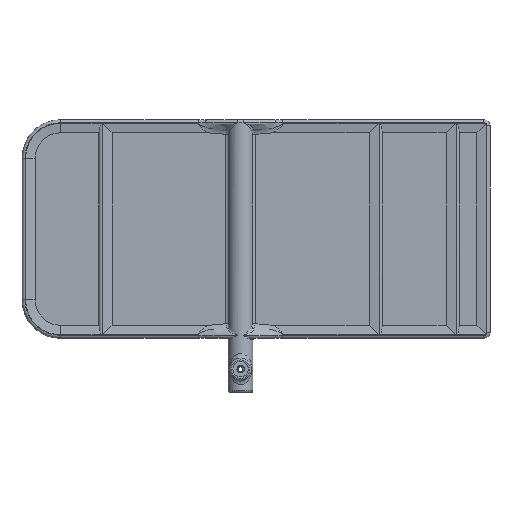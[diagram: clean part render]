
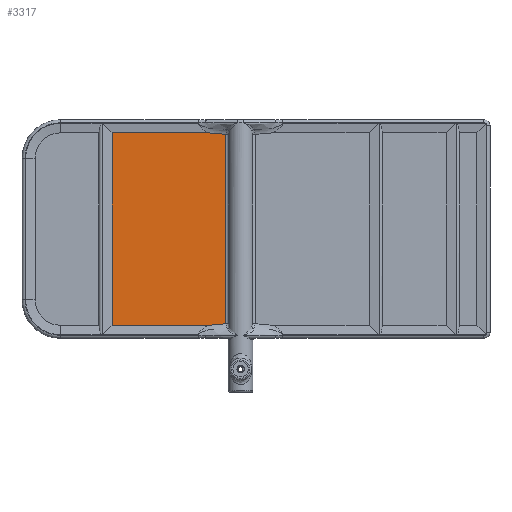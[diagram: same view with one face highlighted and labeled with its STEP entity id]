
A CAD part, top view. The second image highlights one B-rep face of the part: STEP entity #3317.
In plain terms, the highlighted planar face has unit normal (0, 0, 1).
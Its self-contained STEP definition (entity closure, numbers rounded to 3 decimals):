
#142=PLANE('',#3605);
#239=FACE_OUTER_BOUND('',#455,.T.);
#455=EDGE_LOOP('',(#2360,#2361,#2362,#2363,#2364,#2365));
#667=B_SPLINE_CURVE_WITH_KNOTS('',3,(#5919,#5920,#5921,#5922,#5923,#5924,
#5925,#5926,#5927,#5928),.UNSPECIFIED.,.F.,.F.,(4,2,2,2,4),(0.,0.216,
0.359,0.546,0.642),.UNSPECIFIED.);
#668=B_SPLINE_CURVE_WITH_KNOTS('',3,(#5932,#5933,#5934,#5935,#5936,#5937,
#5938,#5939,#5940,#5941),.UNSPECIFIED.,.F.,.F.,(4,2,2,2,4),(0.212,
0.631,0.944,1.131,1.247),
 .UNSPECIFIED.);
#783=LINE('',#5915,#998);
#784=LINE('',#5917,#999);
#785=LINE('',#5930,#1000);
#786=LINE('',#5942,#1001);
#998=VECTOR('',#4112,10.);
#999=VECTOR('',#4113,10.);
#1000=VECTOR('',#4114,10.);
#1001=VECTOR('',#4115,10.);
#1435=VERTEX_POINT('',#5913);
#1436=VERTEX_POINT('',#5914);
#1437=VERTEX_POINT('',#5916);
#1438=VERTEX_POINT('',#5918);
#1439=VERTEX_POINT('',#5929);
#1440=VERTEX_POINT('',#5931);
#1780=EDGE_CURVE('',#1435,#1436,#783,.T.);
#1781=EDGE_CURVE('',#1436,#1437,#784,.T.);
#1782=EDGE_CURVE('',#1437,#1438,#667,.T.);
#1783=EDGE_CURVE('',#1439,#1438,#785,.T.);
#1784=EDGE_CURVE('',#1439,#1440,#668,.T.);
#1785=EDGE_CURVE('',#1440,#1435,#786,.T.);
#2360=ORIENTED_EDGE('',*,*,#1780,.T.);
#2361=ORIENTED_EDGE('',*,*,#1781,.T.);
#2362=ORIENTED_EDGE('',*,*,#1782,.T.);
#2363=ORIENTED_EDGE('',*,*,#1783,.F.);
#2364=ORIENTED_EDGE('',*,*,#1784,.T.);
#2365=ORIENTED_EDGE('',*,*,#1785,.T.);
#3317=ADVANCED_FACE('',(#239),#142,.T.);
#3605=AXIS2_PLACEMENT_3D('',#5912,#4110,#4111);
#4110=DIRECTION('center_axis',(0.,0.,1.));
#4111=DIRECTION('ref_axis',(1.,0.,0.));
#4112=DIRECTION('',(0.,-1.,0.));
#4113=DIRECTION('',(1.,0.,0.));
#4114=DIRECTION('',(0.,-1.,0.));
#4115=DIRECTION('',(-1.,0.,0.));
#5912=CARTESIAN_POINT('Origin',(13.879,0.,1.));
#5913=CARTESIAN_POINT('',(-83.5,62.5,1.));
#5914=CARTESIAN_POINT('',(-83.5,-62.5,1.));
#5915=CARTESIAN_POINT('',(-83.5,0.,1.));
#5916=CARTESIAN_POINT('',(-20.732,-62.5,1.));
#5917=CARTESIAN_POINT('',(2.971,-62.5,1.));
#5918=CARTESIAN_POINT('',(-9.539,-61.541,1.));
#5919=CARTESIAN_POINT('Ctrl Pts',(-20.732,-62.5,1.));
#5920=CARTESIAN_POINT('Ctrl Pts',(-20.011,-62.5,1.));
#5921=CARTESIAN_POINT('Ctrl Pts',(-19.064,-62.429,1.));
#5922=CARTESIAN_POINT('Ctrl Pts',(-17.143,-62.256,1.));
#5923=CARTESIAN_POINT('Ctrl Pts',(-17.034,-62.244,1.));
#5924=CARTESIAN_POINT('Ctrl Pts',(-13.387,-61.893,1.));
#5925=CARTESIAN_POINT('Ctrl Pts',(-12.957,-61.853,1.));
#5926=CARTESIAN_POINT('Ctrl Pts',(-10.915,-61.665,1.));
#5927=CARTESIAN_POINT('Ctrl Pts',(-10.227,-61.603,1.));
#5928=CARTESIAN_POINT('Ctrl Pts',(-9.539,-61.541,1.));
#5929=CARTESIAN_POINT('',(-9.539,61.541,1.));
#5930=CARTESIAN_POINT('',(-9.539,-17.5,1.));
#5931=CARTESIAN_POINT('',(-20.732,62.5,1.));
#5932=CARTESIAN_POINT('Ctrl Pts',(-9.539,61.541,1.));
#5933=CARTESIAN_POINT('Ctrl Pts',(-10.92,61.665,1.));
#5934=CARTESIAN_POINT('Ctrl Pts',(-12.316,61.793,1.));
#5935=CARTESIAN_POINT('Ctrl Pts',(-14.942,62.042,1.));
#5936=CARTESIAN_POINT('Ctrl Pts',(-15.882,62.134,1.));
#5937=CARTESIAN_POINT('Ctrl Pts',(-17.102,62.25,1.));
#5938=CARTESIAN_POINT('Ctrl Pts',(-18.359,62.37,1.));
#5939=CARTESIAN_POINT('Ctrl Pts',(-19.624,62.463,1.));
#5940=CARTESIAN_POINT('Ctrl Pts',(-20.223,62.5,1.));
#5941=CARTESIAN_POINT('Ctrl Pts',(-20.732,62.5,1.));
#5942=CARTESIAN_POINT('',(-51.56,62.5,1.));
